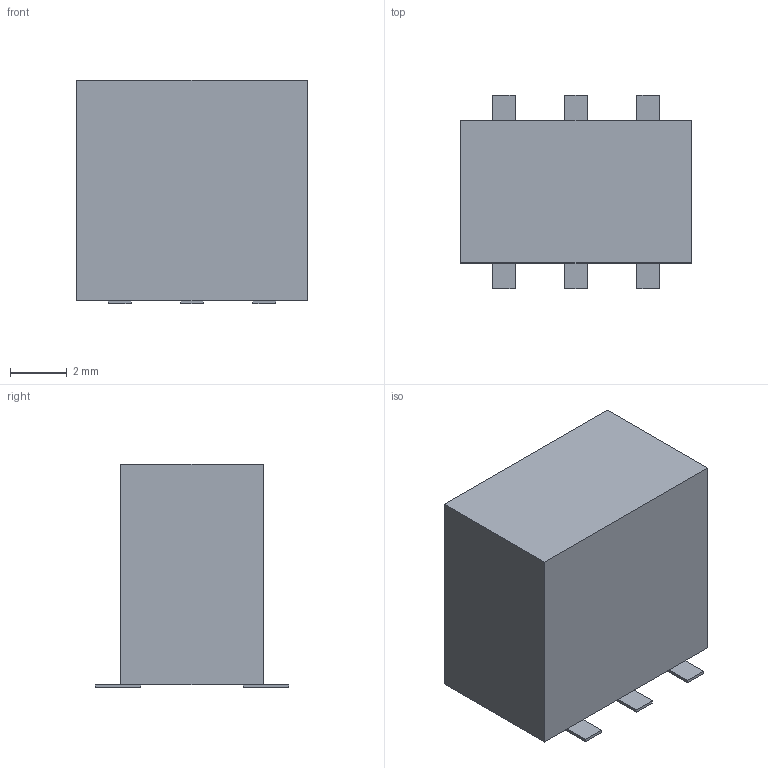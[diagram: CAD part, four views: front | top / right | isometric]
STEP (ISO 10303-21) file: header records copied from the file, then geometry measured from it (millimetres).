
FILE_DESCRIPTION(('FreeCAD Model'),'2;1');
FILE_NAME('/var/www/3D/0T/1828843.1.3.stp','2020-11-24T19:17:11',( 'Author'),(''),'Open CASCADE STEP processor 6.9','FreeCAD','Unknown' );
FILE_SCHEMA(('AUTOMOTIVE_DESIGN { 1 0 10303 214 1 1 1 1 }'));
Length unit declared in the file: millimetre
Products named in the file (3): ASSEMBLY; Body; Pins
Assembly tree (2 placements, depth 2):
  ASSEMBLY
    Body
    Pins
Bounding box: 8.12 x 6.8 x 7.85 mm (x, y, z)
Volume: 315.4 mm3; surface area: 302.8 mm2
Topology: 7 solids, 7 shells, 42 faces, 84 edges, 56 vertices
Faces by surface type: plane 42
Entity records: 2261 total; most frequent: CARTESIAN_POINT 353, DIRECTION 342, LINE 252, VECTOR 252, ORIENTED_EDGE 168, PCURVE 168, DEFINITIONAL_REPRESENTATION 168, EDGE_CURVE 84
